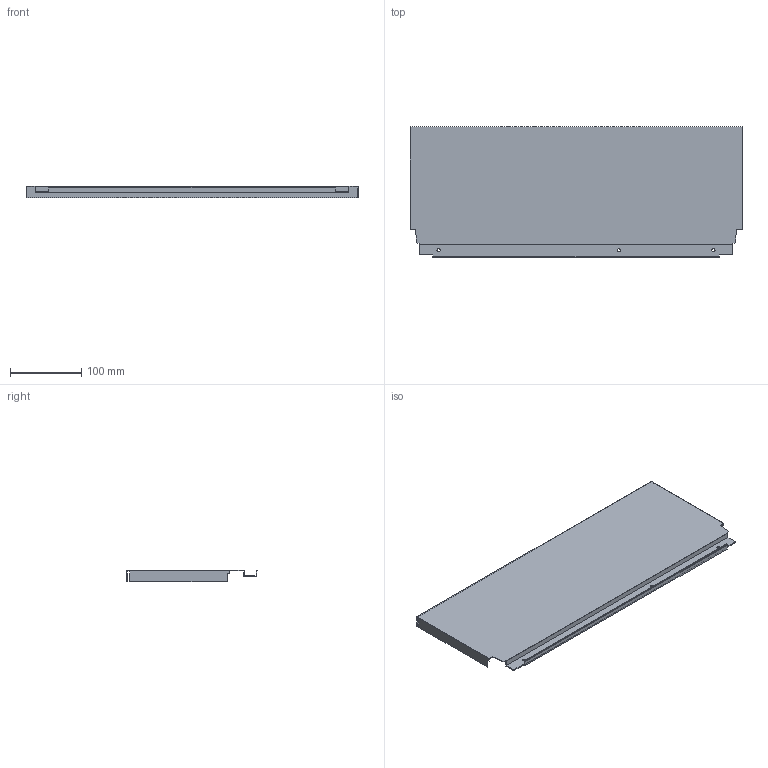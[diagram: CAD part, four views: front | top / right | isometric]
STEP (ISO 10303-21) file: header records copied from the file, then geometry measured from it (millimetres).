
FILE_DESCRIPTION (( 'STEP AP214' ), '1' );
FILE_NAME ('_DWD_XP Stahlrückwand_H182_KAB550_S17.step', '2010-07-08T12:57:44', ( 'grass' ), ( '' ), 'SwSTEP 2.0', 'SolidWorks 2010', '' );
FILE_SCHEMA (( 'AUTOMOTIVE_DESIGN' ));
Length unit declared in the file: millimetre
Products named in the file (1): _DWD_XP Stahlrückwand_H182_KAB550_S17
Bounding box: 465 x 182.49 x 16 mm (x, y, z)
Volume: 87876 mm3; surface area: 204121.8 mm2
Topology: 1 solids, 1 shells, 46 faces, 132 edges, 88 vertices
Faces by surface type: plane 40, cylinder 6
Entity records: 1534 total; most frequent: CARTESIAN_POINT 267, ORIENTED_EDGE 264, DIRECTION 238, EDGE_CURVE 132, VECTOR 120, LINE 120, VERTEX_POINT 88, AXIS2_PLACEMENT_3D 59
